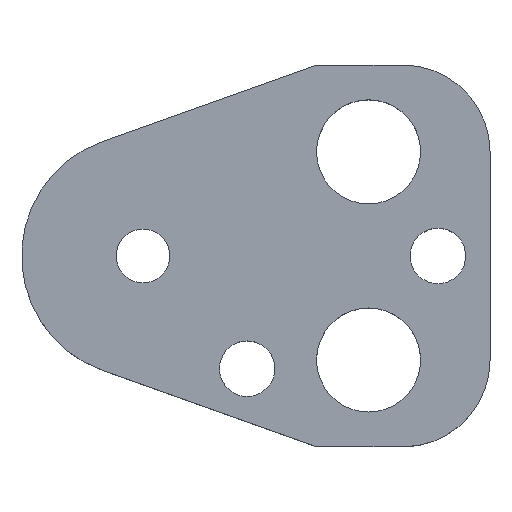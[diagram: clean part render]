
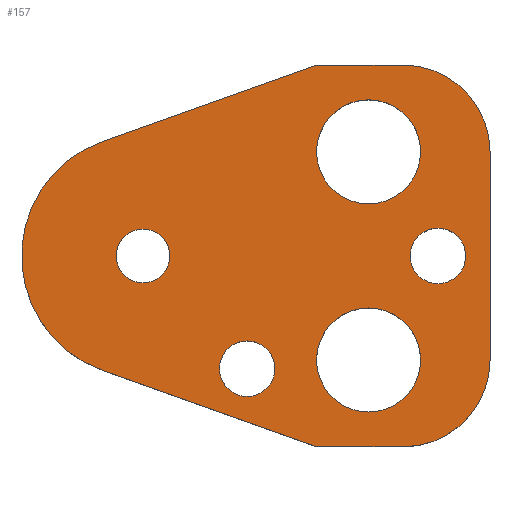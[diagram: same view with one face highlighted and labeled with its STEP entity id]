
A CAD part, top view. The second image highlights one B-rep face of the part: STEP entity #157.
In plain terms, the highlighted planar face has unit normal (0, 0, 1).
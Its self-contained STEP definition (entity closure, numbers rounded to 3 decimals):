
#103=FACE_BOUND('',#207,.T.);
#104=FACE_BOUND('',#208,.T.);
#105=FACE_BOUND('',#209,.T.);
#106=FACE_BOUND('',#210,.T.);
#107=FACE_BOUND('',#211,.T.);
#108=FACE_BOUND('',#212,.T.);
#122=CIRCLE('',#480,10.);
#124=CIRCLE('',#484,10.);
#127=CIRCLE('',#490,14.);
#138=CIRCLE('',#503,3.2);
#139=CIRCLE('',#504,3.2);
#140=CIRCLE('',#505,6.);
#141=CIRCLE('',#506,6.);
#142=CIRCLE('',#507,6.);
#143=CIRCLE('',#508,6.);
#144=CIRCLE('',#509,3.2);
#145=CIRCLE('',#510,3.2);
#146=CIRCLE('',#511,3.1);
#147=CIRCLE('',#512,3.1);
#157=ADVANCED_FACE('',(#103,#104,#105,#106,#107,#108),#174,.T.);
#174=PLANE('',#513);
#207=EDGE_LOOP('',(#273,#274,#275,#276,#277,#278,#279,#280));
#208=EDGE_LOOP('',(#281,#282));
#209=EDGE_LOOP('',(#283,#284));
#210=EDGE_LOOP('',(#285,#286));
#211=EDGE_LOOP('',(#287,#288));
#212=EDGE_LOOP('',(#289,#290));
#273=ORIENTED_EDGE('',*,*,#368,.T.);
#274=ORIENTED_EDGE('',*,*,#372,.T.);
#275=ORIENTED_EDGE('',*,*,#375,.T.);
#276=ORIENTED_EDGE('',*,*,#378,.T.);
#277=ORIENTED_EDGE('',*,*,#381,.T.);
#278=ORIENTED_EDGE('',*,*,#384,.T.);
#279=ORIENTED_EDGE('',*,*,#387,.T.);
#280=ORIENTED_EDGE('',*,*,#390,.T.);
#281=ORIENTED_EDGE('',*,*,#401,.T.);
#282=ORIENTED_EDGE('',*,*,#402,.T.);
#283=ORIENTED_EDGE('',*,*,#403,.T.);
#284=ORIENTED_EDGE('',*,*,#404,.T.);
#285=ORIENTED_EDGE('',*,*,#405,.T.);
#286=ORIENTED_EDGE('',*,*,#406,.T.);
#287=ORIENTED_EDGE('',*,*,#407,.T.);
#288=ORIENTED_EDGE('',*,*,#408,.T.);
#289=ORIENTED_EDGE('',*,*,#409,.T.);
#290=ORIENTED_EDGE('',*,*,#410,.T.);
#332=VERTEX_POINT('',#649);
#333=VERTEX_POINT('',#651);
#336=VERTEX_POINT('',#658);
#338=VERTEX_POINT('',#664);
#340=VERTEX_POINT('',#670);
#342=VERTEX_POINT('',#676);
#344=VERTEX_POINT('',#682);
#346=VERTEX_POINT('',#688);
#357=VERTEX_POINT('',#717);
#358=VERTEX_POINT('',#718);
#359=VERTEX_POINT('',#721);
#360=VERTEX_POINT('',#722);
#361=VERTEX_POINT('',#725);
#362=VERTEX_POINT('',#726);
#363=VERTEX_POINT('',#729);
#364=VERTEX_POINT('',#730);
#365=VERTEX_POINT('',#733);
#366=VERTEX_POINT('',#734);
#368=EDGE_CURVE('',#333,#332,#422,.T.);
#372=EDGE_CURVE('',#332,#336,#426,.T.);
#375=EDGE_CURVE('',#336,#338,#122,.T.);
#378=EDGE_CURVE('',#338,#340,#430,.T.);
#381=EDGE_CURVE('',#340,#342,#124,.T.);
#384=EDGE_CURVE('',#342,#344,#434,.T.);
#387=EDGE_CURVE('',#344,#346,#437,.T.);
#390=EDGE_CURVE('',#346,#333,#127,.T.);
#401=EDGE_CURVE('',#357,#358,#138,.T.);
#402=EDGE_CURVE('',#358,#357,#139,.T.);
#403=EDGE_CURVE('',#359,#360,#140,.T.);
#404=EDGE_CURVE('',#360,#359,#141,.T.);
#405=EDGE_CURVE('',#361,#362,#142,.T.);
#406=EDGE_CURVE('',#362,#361,#143,.T.);
#407=EDGE_CURVE('',#363,#364,#144,.T.);
#408=EDGE_CURVE('',#364,#363,#145,.T.);
#409=EDGE_CURVE('',#365,#366,#146,.T.);
#410=EDGE_CURVE('',#366,#365,#147,.T.);
#422=LINE('',#650,#450);
#426=LINE('',#659,#454);
#430=LINE('',#671,#458);
#434=LINE('',#683,#462);
#437=LINE('',#689,#465);
#450=VECTOR('',#527,1.);
#454=VECTOR('',#533,1.);
#458=VECTOR('',#545,1.);
#462=VECTOR('',#557,1.);
#465=VECTOR('',#562,1.);
#480=AXIS2_PLACEMENT_3D('',#665,#538,#539);
#484=AXIS2_PLACEMENT_3D('',#677,#550,#551);
#490=AXIS2_PLACEMENT_3D('',#693,#568,#569);
#503=AXIS2_PLACEMENT_3D('',#716,#594,#595);
#504=AXIS2_PLACEMENT_3D('',#719,#596,#597);
#505=AXIS2_PLACEMENT_3D('',#720,#598,#599);
#506=AXIS2_PLACEMENT_3D('',#723,#600,#601);
#507=AXIS2_PLACEMENT_3D('',#724,#602,#603);
#508=AXIS2_PLACEMENT_3D('',#727,#604,#605);
#509=AXIS2_PLACEMENT_3D('',#728,#606,#607);
#510=AXIS2_PLACEMENT_3D('',#731,#608,#609);
#511=AXIS2_PLACEMENT_3D('',#732,#610,#611);
#512=AXIS2_PLACEMENT_3D('',#735,#612,#613);
#513=AXIS2_PLACEMENT_3D('',#736,#614,#615);
#527=DIRECTION('',(0.942,-0.336,0.));
#533=DIRECTION('',(1.,0.,0.));
#538=DIRECTION('',(0.,0.,1.));
#539=DIRECTION('',(-0.707,0.707,0.));
#545=DIRECTION('',(0.,1.,0.));
#550=DIRECTION('',(0.,0.,1.));
#551=DIRECTION('',(-0.707,-0.707,0.));
#557=DIRECTION('',(-1.,0.,0.));
#562=DIRECTION('',(-0.942,-0.336,0.));
#568=DIRECTION('',(0.,0.,1.));
#569=DIRECTION('',(1.,0.,0.));
#594=DIRECTION('',(0.,0.,-1.));
#595=DIRECTION('',(-1.,0.,0.));
#596=DIRECTION('',(0.,0.,-1.));
#597=DIRECTION('',(1.,0.,0.));
#598=DIRECTION('',(0.,0.,-1.));
#599=DIRECTION('',(-1.,0.,0.));
#600=DIRECTION('',(0.,0.,-1.));
#601=DIRECTION('',(1.,0.,0.));
#602=DIRECTION('',(0.,0.,-1.));
#603=DIRECTION('',(-1.,0.,0.));
#604=DIRECTION('',(0.,0.,-1.));
#605=DIRECTION('',(1.,0.,0.));
#606=DIRECTION('',(0.,0.,-1.));
#607=DIRECTION('',(-1.,0.,0.));
#608=DIRECTION('',(0.,0.,-1.));
#609=DIRECTION('',(1.,0.,0.));
#610=DIRECTION('',(0.,0.,-1.));
#611=DIRECTION('',(-1.,0.,0.));
#612=DIRECTION('',(0.,0.,-1.));
#613=DIRECTION('',(1.,0.,0.));
#614=DIRECTION('',(0.,0.,1.));
#615=DIRECTION('',(0.942,-0.336,0.));
#649=CARTESIAN_POINT('',(20.,-22.,10.));
#650=CARTESIAN_POINT('',(20.,-22.,10.));
#651=CARTESIAN_POINT('',(-4.704,-13.186,10.));
#658=CARTESIAN_POINT('',(30.,-22.,10.));
#659=CARTESIAN_POINT('',(20.,-22.,10.));
#664=CARTESIAN_POINT('',(40.,-12.,10.));
#665=CARTESIAN_POINT('',(30.,-12.,10.));
#670=CARTESIAN_POINT('',(40.,12.,10.));
#671=CARTESIAN_POINT('',(40.,12.,10.));
#676=CARTESIAN_POINT('',(30.,22.,10.));
#677=CARTESIAN_POINT('',(30.,12.,10.));
#682=CARTESIAN_POINT('',(20.,22.,10.));
#683=CARTESIAN_POINT('',(20.,22.,10.));
#688=CARTESIAN_POINT('',(-4.704,13.186,10.));
#689=CARTESIAN_POINT('',(20.,22.,10.));
#693=CARTESIAN_POINT('',(0.,0.,10.));
#716=CARTESIAN_POINT('',(34.,0.,10.));
#717=CARTESIAN_POINT('',(34.,3.2,10.));
#718=CARTESIAN_POINT('',(34.,-3.2,10.));
#719=CARTESIAN_POINT('',(34.,0.,10.));
#720=CARTESIAN_POINT('',(26.,12.,10.));
#721=CARTESIAN_POINT('',(26.,18.,10.));
#722=CARTESIAN_POINT('',(26.,6.,10.));
#723=CARTESIAN_POINT('',(26.,12.,10.));
#724=CARTESIAN_POINT('',(26.,-12.,10.));
#725=CARTESIAN_POINT('',(26.,-6.,10.));
#726=CARTESIAN_POINT('',(26.,-18.,10.));
#727=CARTESIAN_POINT('',(26.,-12.,10.));
#728=CARTESIAN_POINT('',(12.,-13.,10.));
#729=CARTESIAN_POINT('',(12.,-9.8,10.));
#730=CARTESIAN_POINT('',(12.,-16.2,10.));
#731=CARTESIAN_POINT('',(12.,-13.,10.));
#732=CARTESIAN_POINT('',(0.,0.,10.));
#733=CARTESIAN_POINT('',(0.,3.1,10.));
#734=CARTESIAN_POINT('',(0.,-3.1,10.));
#735=CARTESIAN_POINT('',(0.,0.,10.));
#736=CARTESIAN_POINT('',(-4.704,-13.186,10.));
